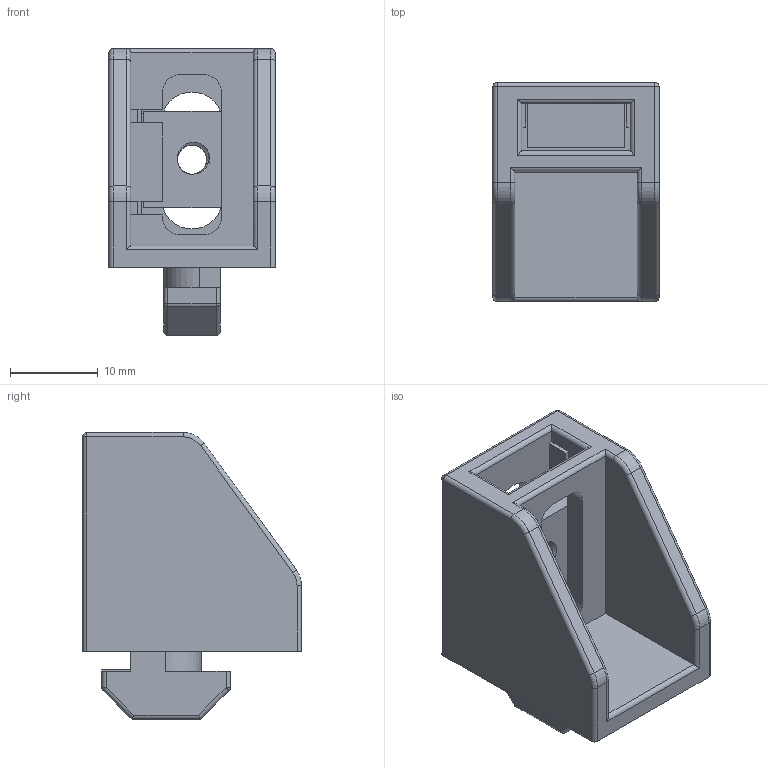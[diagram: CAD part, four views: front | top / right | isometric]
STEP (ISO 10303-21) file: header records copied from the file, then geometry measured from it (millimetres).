
FILE_DESCRIPTION(/* description */ ('STEP AP203'),/* implementation_level */ '2;1');
FILE_NAME(/* name */ 'Panel Bracket - 30 Series.step',/* time_stamp */ '2025-09-26T16:15:37+03:00',/* author */ (''),/* organization */ (''),/* preprocessor_version */ 'ST-DEVELOPER v20.1',/* originating_system */ 'Autodesk Translation Framework v14.17.0.0',/* authorisation */ '');
FILE_SCHEMA (('AUTOMOTIVE_DESIGN { 1 0 10303 214 3 1 1 }'));
Length unit declared in the file: millimetre
Products named in the file (1): 360.0603A.01
Bounding box: 19 x 25 x 32.8 mm (x, y, z)
Volume: 5724.7 mm3; surface area: 4793.5 mm2
Topology: 2 solids, 2 shells, 145 faces, 371 edges, 228 vertices
Faces by surface type: cylinder 65, plane 64, torus 8, sphere 6, bspline 2
Full cylindrical faces by diameter (mm): 2 x2, 3.332 x4, 4.109 x1
Entity records: 5443 total; most frequent: CARTESIAN_POINT 1917, ORIENTED_EDGE 734, DIRECTION 719, EDGE_CURVE 367, AXIS2_PLACEMENT_3D 244, LINE 231, VECTOR 231, VERTEX_POINT 228
